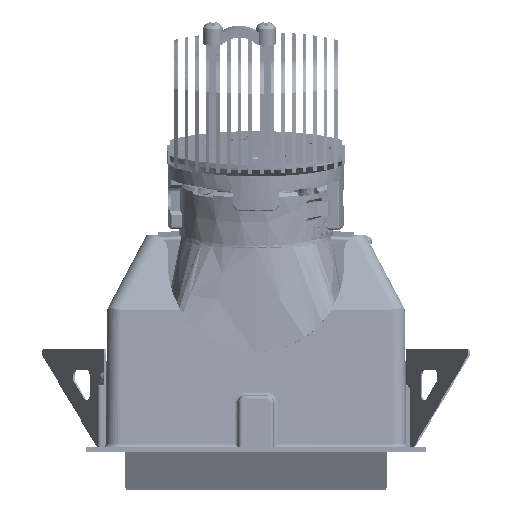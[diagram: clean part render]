
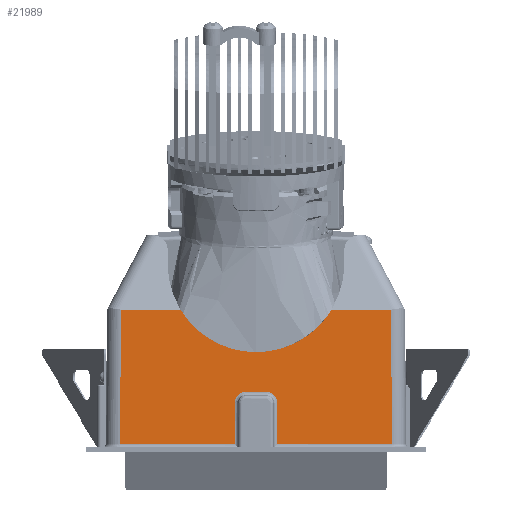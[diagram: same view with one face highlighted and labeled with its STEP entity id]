
A CAD part, front view. The second image highlights one B-rep face of the part: STEP entity #21989.
In plain terms, the highlighted planar face has unit normal (0, -1, 0.009).
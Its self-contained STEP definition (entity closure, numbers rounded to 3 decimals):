
#14307=CARTESIAN_POINT('Vertex',(38.492,-42.491,0.991)) ;
#14339=CARTESIAN_POINT('Line Origine',(0.,-42.491,0.991)) ;
#14343=CARTESIAN_POINT('Vertex',(6.,-42.491,0.991)) ;
#14535=CARTESIAN_POINT('Vertex',(-6.,-42.491,0.991)) ;
#14540=CARTESIAN_POINT('Line Origine',(0.,-42.491,0.991)) ;
#14544=CARTESIAN_POINT('Vertex',(-38.492,-42.491,0.991)) ;
#21818=CARTESIAN_POINT('Vertex',(38.16,-42.16,39.)) ;
#21821=CARTESIAN_POINT('Line Origine',(38.33,-42.33,19.5)) ;
#21840=CARTESIAN_POINT('Line Origine',(6.,-42.326,19.996)) ;
#21844=CARTESIAN_POINT('Vertex',(6.,-42.389,12.691)) ;
#21867=CARTESIAN_POINT('Axis2P3D Location',(0.,-42.5,0.)) ;
#21872=CARTESIAN_POINT('Line Origine',(-38.326,-42.326,19.996)) ;
#21876=CARTESIAN_POINT('Vertex',(-38.16,-42.16,39.)) ;
#21879=CARTESIAN_POINT('Line Origine',(-6.,-42.44,6.841)) ;
#21883=CARTESIAN_POINT('Vertex',(-6.,-42.389,12.691)) ;
#21887=CARTESIAN_POINT('Control Point',(-3.,-42.363,15.691)) ;
#21888=CARTESIAN_POINT('Control Point',(-3.34,-42.363,15.691)) ;
#21889=CARTESIAN_POINT('Control Point',(-3.679,-42.363,15.643)) ;
#21890=CARTESIAN_POINT('Control Point',(-4.006,-42.364,15.548)) ;
#21891=CARTESIAN_POINT('Control Point',(-4.631,-42.367,15.266)) ;
#21892=CARTESIAN_POINT('Control Point',(-5.153,-42.371,14.822)) ;
#21893=CARTESIAN_POINT('Control Point',(-5.38,-42.373,14.564)) ;
#21894=CARTESIAN_POINT('Control Point',(-5.715,-42.377,14.055)) ;
#21895=CARTESIAN_POINT('Control Point',(-5.913,-42.382,13.48)) ;
#21896=CARTESIAN_POINT('Control Point',(-5.971,-42.385,13.221)) ;
#21897=CARTESIAN_POINT('Control Point',(-6.,-42.387,12.956)) ;
#21898=CARTESIAN_POINT('Control Point',(-6.,-42.389,12.691)) ;
#21899=CARTESIAN_POINT('Vertex',(-3.,-42.363,15.691)) ;
#21902=CARTESIAN_POINT('Line Origine',(0.,-42.363,15.691)) ;
#21906=CARTESIAN_POINT('Vertex',(3.,-42.363,15.691)) ;
#21910=CARTESIAN_POINT('Control Point',(6.,-42.389,12.691)) ;
#21911=CARTESIAN_POINT('Control Point',(6.,-42.386,13.031)) ;
#21912=CARTESIAN_POINT('Control Point',(5.952,-42.383,13.37)) ;
#21913=CARTESIAN_POINT('Control Point',(5.857,-42.38,13.698)) ;
#21914=CARTESIAN_POINT('Control Point',(5.575,-42.375,14.322)) ;
#21915=CARTESIAN_POINT('Control Point',(5.131,-42.37,14.844)) ;
#21916=CARTESIAN_POINT('Control Point',(4.873,-42.368,15.072)) ;
#21917=CARTESIAN_POINT('Control Point',(4.363,-42.366,15.407)) ;
#21918=CARTESIAN_POINT('Control Point',(3.789,-42.364,15.604)) ;
#21919=CARTESIAN_POINT('Control Point',(3.53,-42.363,15.662)) ;
#21920=CARTESIAN_POINT('Control Point',(3.265,-42.363,15.691)) ;
#21921=CARTESIAN_POINT('Control Point',(3.,-42.363,15.691)) ;
#21923=CARTESIAN_POINT('Line Origine',(29.763,-42.16,39.)) ;
#21927=CARTESIAN_POINT('Vertex',(21.365,-42.16,39.)) ;
#21931=CARTESIAN_POINT('Control Point',(-21.365,-42.16,39.)) ;
#21932=CARTESIAN_POINT('Control Point',(-20.982,-42.165,38.37)) ;
#21933=CARTESIAN_POINT('Control Point',(-20.584,-42.17,37.763)) ;
#21934=CARTESIAN_POINT('Control Point',(-20.171,-42.176,37.181)) ;
#21935=CARTESIAN_POINT('Control Point',(-19.441,-42.184,36.232)) ;
#21936=CARTESIAN_POINT('Control Point',(-18.676,-42.191,35.352)) ;
#21937=CARTESIAN_POINT('Control Point',(-18.348,-42.195,34.991)) ;
#21938=CARTESIAN_POINT('Control Point',(-17.329,-42.204,33.923)) ;
#21939=CARTESIAN_POINT('Control Point',(-16.267,-42.212,32.96)) ;
#21940=CARTESIAN_POINT('Control Point',(-15.513,-42.218,32.342)) ;
#21941=CARTESIAN_POINT('Control Point',(-13.944,-42.228,31.175)) ;
#21942=CARTESIAN_POINT('Control Point',(-12.322,-42.236,30.197)) ;
#21943=CARTESIAN_POINT('Control Point',(-11.482,-42.24,29.744)) ;
#21944=CARTESIAN_POINT('Control Point',(-9.483,-42.249,28.783)) ;
#21945=CARTESIAN_POINT('Control Point',(-7.442,-42.255,28.066)) ;
#21946=CARTESIAN_POINT('Control Point',(-6.278,-42.258,27.738)) ;
#21947=CARTESIAN_POINT('Control Point',(-3.657,-42.263,27.16)) ;
#21948=CARTESIAN_POINT('Control Point',(-1.012,-42.265,26.938)) ;
#21949=CARTESIAN_POINT('Control Point',(0.465,-42.265,26.922)) ;
#21950=CARTESIAN_POINT('Control Point',(2.88,-42.264,27.072)) ;
#21951=CARTESIAN_POINT('Control Point',(5.278,-42.26,27.517)) ;
#21952=CARTESIAN_POINT('Control Point',(6.232,-42.258,27.741)) ;
#21953=CARTESIAN_POINT('Control Point',(8.073,-42.253,28.27)) ;
#21954=CARTESIAN_POINT('Control Point',(9.888,-42.247,28.989)) ;
#21955=CARTESIAN_POINT('Control Point',(10.779,-42.243,29.393)) ;
#21956=CARTESIAN_POINT('Control Point',(12.47,-42.236,30.26)) ;
#21957=CARTESIAN_POINT('Control Point',(14.116,-42.227,31.315)) ;
#21958=CARTESIAN_POINT('Control Point',(14.885,-42.222,31.861)) ;
#21959=CARTESIAN_POINT('Control Point',(16.2,-42.213,32.892)) ;
#21960=CARTESIAN_POINT('Control Point',(17.462,-42.203,34.069)) ;
#21961=CARTESIAN_POINT('Control Point',(17.957,-42.198,34.567)) ;
#21962=CARTESIAN_POINT('Control Point',(18.99,-42.189,35.676)) ;
#21963=CARTESIAN_POINT('Control Point',(19.969,-42.178,36.901)) ;
#21964=CARTESIAN_POINT('Control Point',(20.455,-42.172,37.567)) ;
#21965=CARTESIAN_POINT('Control Point',(20.921,-42.166,38.268)) ;
#21966=CARTESIAN_POINT('Control Point',(21.365,-42.16,39.)) ;
#21967=CARTESIAN_POINT('Vertex',(-21.365,-42.16,39.)) ;
#21970=CARTESIAN_POINT('Line Origine',(-29.763,-42.16,39.)) ;
#14340=DIRECTION('Vector Direction',(-1.,0.,0.)) ;
#14541=DIRECTION('Vector Direction',(-1.,0.,0.)) ;
#21822=DIRECTION('Vector Direction',(-0.009,0.009,1.)) ;
#21841=DIRECTION('Vector Direction',(0.,0.009,1.)) ;
#21868=DIRECTION('Axis2P3D Direction',(0.,-1.,0.009)) ;
#21869=DIRECTION('Axis2P3D XDirection',(-1.,0.,0.)) ;
#21873=DIRECTION('Vector Direction',(-0.009,-0.009,-1.)) ;
#21880=DIRECTION('Vector Direction',(0.,-0.009,-1.)) ;
#21903=DIRECTION('Vector Direction',(-1.,0.,0.)) ;
#21924=DIRECTION('Vector Direction',(-1.,0.,0.)) ;
#21971=DIRECTION('Vector Direction',(1.,0.,0.)) ;
#21870=AXIS2_PLACEMENT_3D('Plane Axis2P3D',#21867,#21868,#21869) ;
#21976=ORIENTED_EDGE('',*,*,#21878,.T.) ;
#21977=ORIENTED_EDGE('',*,*,#14546,.F.) ;
#21978=ORIENTED_EDGE('',*,*,#21885,.F.) ;
#21979=ORIENTED_EDGE('',*,*,#21901,.F.) ;
#21980=ORIENTED_EDGE('',*,*,#21908,.F.) ;
#21981=ORIENTED_EDGE('',*,*,#21922,.F.) ;
#21982=ORIENTED_EDGE('',*,*,#21846,.F.) ;
#21983=ORIENTED_EDGE('',*,*,#14345,.F.) ;
#21984=ORIENTED_EDGE('',*,*,#21825,.F.) ;
#21985=ORIENTED_EDGE('',*,*,#21929,.T.) ;
#21986=ORIENTED_EDGE('',*,*,#21969,.F.) ;
#21987=ORIENTED_EDGE('',*,*,#21974,.F.) ;
#14341=VECTOR('Line Direction',#14340,1.) ;
#14542=VECTOR('Line Direction',#14541,1.) ;
#21823=VECTOR('Line Direction',#21822,1.) ;
#21842=VECTOR('Line Direction',#21841,1.) ;
#21874=VECTOR('Line Direction',#21873,1.) ;
#21881=VECTOR('Line Direction',#21880,1.) ;
#21904=VECTOR('Line Direction',#21903,1.) ;
#21925=VECTOR('Line Direction',#21924,1.) ;
#21972=VECTOR('Line Direction',#21971,1.) ;
#21989=ADVANCED_FACE('X.ZP1CK.1\\322\\320\\299\\295\\MANIFOLD_SOLID_BREP #29337',(#21988),#21871,.T.) ;
#21886=B_SPLINE_CURVE_WITH_KNOTS('',5,(#21887,#21888,#21889,#21890,#21891,#21892,#21893,#21894,#21895,#21896,#21897,#21898),.UNSPECIFIED.,.F.,.U.,(6,3,3,6),(0.,2.405,4.805,6.681),.UNSPECIFIED.) ;
#21909=B_SPLINE_CURVE_WITH_KNOTS('',5,(#21910,#21911,#21912,#21913,#21914,#21915,#21916,#21917,#21918,#21919,#21920,#21921),.UNSPECIFIED.,.F.,.U.,(6,3,3,6),(0.,2.405,4.805,6.681),.UNSPECIFIED.) ;
#21930=B_SPLINE_CURVE_WITH_KNOTS('',5,(#21931,#21932,#21933,#21934,#21935,#21936,#21937,#21938,#21939,#21940,#21941,#21942,#21943,#21944,#21945,#21946,#21947,#21948,#21949,#21950,#21951,#21952,#21953,#21954,#21955,#21956,#21957,#21958,#21959,#21960,#21961,#21962,#21963,#21964,#21965,#21966),.UNSPECIFIED.,.F.,.U.,(6,3,3,3,3,3,3,3,3,3,3,6),(0.,4.345,7.416,13.928,20.987,30.26,41.658,49.121,56.278,63.017,67.759,72.807),.UNSPECIFIED.) ;
#14345=EDGE_CURVE('',#14308,#14344,#14342,.T.) ;
#14546=EDGE_CURVE('',#14536,#14545,#14543,.T.) ;
#21825=EDGE_CURVE('',#21819,#14308,#21824,.F.) ;
#21846=EDGE_CURVE('',#14344,#21845,#21843,.T.) ;
#21878=EDGE_CURVE('',#21877,#14545,#21875,.T.) ;
#21885=EDGE_CURVE('',#21884,#14536,#21882,.T.) ;
#21901=EDGE_CURVE('',#21900,#21884,#21886,.T.) ;
#21908=EDGE_CURVE('',#21907,#21900,#21905,.T.) ;
#21922=EDGE_CURVE('',#21845,#21907,#21909,.T.) ;
#21929=EDGE_CURVE('',#21819,#21928,#21926,.T.) ;
#21969=EDGE_CURVE('',#21968,#21928,#21930,.T.) ;
#21974=EDGE_CURVE('',#21877,#21968,#21973,.T.) ;
#21975=EDGE_LOOP('',(#21976,#21977,#21978,#21979,#21980,#21981,#21982,#21983,#21984,#21985,#21986,#21987)) ;
#21988=FACE_OUTER_BOUND('',#21975,.T.) ;
#14342=LINE('Line',#14339,#14341) ;
#14543=LINE('Line',#14540,#14542) ;
#21824=LINE('Line',#21821,#21823) ;
#21843=LINE('Line',#21840,#21842) ;
#21875=LINE('Line',#21872,#21874) ;
#21882=LINE('Line',#21879,#21881) ;
#21905=LINE('Line',#21902,#21904) ;
#21926=LINE('Line',#21923,#21925) ;
#21973=LINE('Line',#21970,#21972) ;
#21871=PLANE('',#21870) ;
#14308=VERTEX_POINT('',#14307) ;
#14344=VERTEX_POINT('',#14343) ;
#14536=VERTEX_POINT('',#14535) ;
#14545=VERTEX_POINT('',#14544) ;
#21819=VERTEX_POINT('',#21818) ;
#21845=VERTEX_POINT('',#21844) ;
#21877=VERTEX_POINT('',#21876) ;
#21884=VERTEX_POINT('',#21883) ;
#21900=VERTEX_POINT('',#21899) ;
#21907=VERTEX_POINT('',#21906) ;
#21928=VERTEX_POINT('',#21927) ;
#21968=VERTEX_POINT('',#21967) ;
